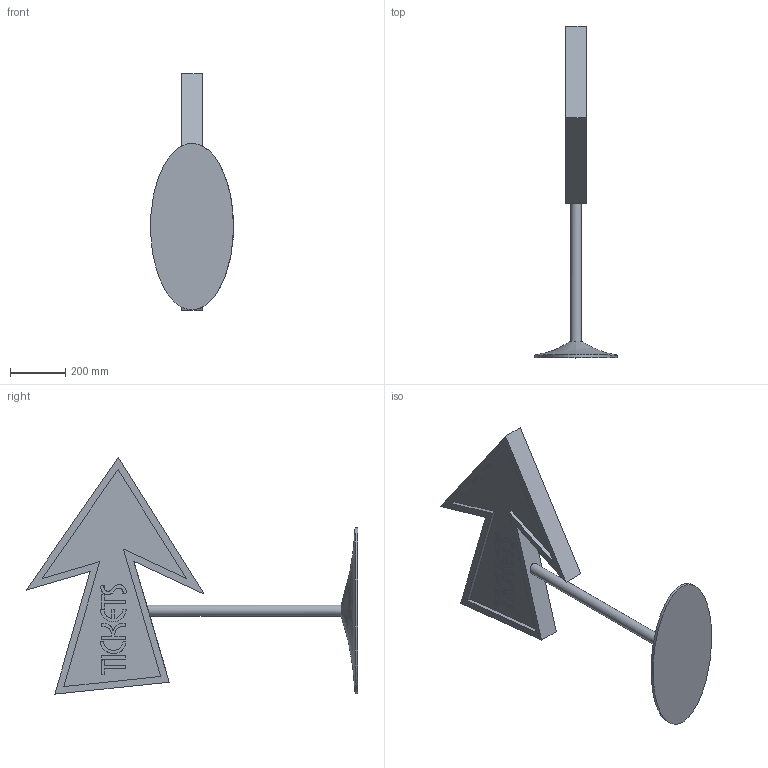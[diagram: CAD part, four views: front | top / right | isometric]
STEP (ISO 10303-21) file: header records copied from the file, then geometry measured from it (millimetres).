
FILE_DESCRIPTION(/* description */ (''),/* implementation_level */ '2;1');
FILE_NAME(/* name */ 'N:\0_Question Bank\Assignment\Inventor\Environment\Part3.stp',/* time_stamp */ '2023-10-13T10:29:02+01:00',/* author */ ('aphee'),/* organization */ (''),/* preprocessor_version */ 'ST-DEVELOPER v18.1',/* originating_system */ 'Autodesk Inventor 2022',/* authorisation */ '');
FILE_SCHEMA (('AUTOMOTIVE_DESIGN { 1 0 10303 214 3 1 1 }'));
Length unit declared in the file: millimetre
Products named in the file (1): Part3
Bounding box: 299.14 x 1198.54 x 853.61 mm (x, y, z)
Volume: 17088136.4 mm3; surface area: 1186656.7 mm2
Topology: 1 solids, 1 shells, 122 faces, 330 edges, 220 vertices
Faces by surface type: plane 79, bspline 42, cylinder 1
Full cylindrical faces by diameter (mm): 40 x1
Entity records: 4135 total; most frequent: CARTESIAN_POINT 1192, ORIENTED_EDGE 660, DIRECTION 417, EDGE_CURVE 330, LINE 243, VECTOR 243, VERTEX_POINT 220, EDGE_LOOP 132
